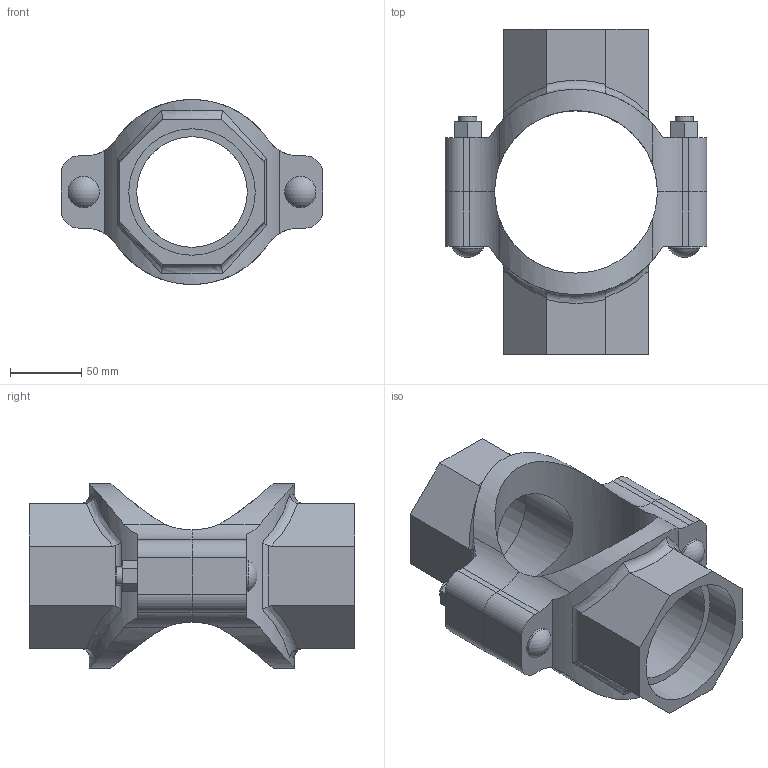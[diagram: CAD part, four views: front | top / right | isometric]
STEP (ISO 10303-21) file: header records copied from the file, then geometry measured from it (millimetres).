
FILE_DESCRIPTION(/* description */ ('VIC MECH-T BRANCH OUTLET CROSS STYLE 920N (THD)','CAx-IF Rec.Pracs.---Representation and Presentation of Product Manufacturing Information (PMI)---4.0---2014-10-13'),/* implementation_level */ '2;1');
FILE_NAME(/* name */ 'C:\Users\Vjadhav\AppData\Roaming\Autodesk\ApplicationPlugins\Back Up\Victaulic_IPS_Mechanical-Cross Outlet_Style 920N (FPT)\Victaulic_IPS_Mechanical-Cross Outlet_04.0x03.0x03.0 (100x80x80).stp',/* time_stamp */ '2020-08-06T18:58:49+05:00',/* author */ ('Vjadhav'),/* organization */ ('Victaulic'),/* preprocessor_version */ 'ST-DEVELOPER v17.2',/* originating_system */ 'Autodesk Inventor 2019',/* authorisation */ '');
FILE_SCHEMA (('AP242_MANAGED_MODEL_BASED_3D_ENGINEERING_MIM_LF { 1 0 10303 442 1 1 4 }'));
Length unit declared in the file: inch
Products named in the file (3): 920NT-04.0x03.0x03.0; 920T-04.0x03.0x03.0; 920T-04.0x03.0
Assembly tree (2 placements, depth 2):
  920NT-04.0x03.0x03.0
    920T-04.0x03.0x03.0
    920T-04.0x03.0
Bounding box: 184.15 x 228.6 x 130.04 mm (x, y, z)
Volume: 884547.8 mm3; surface area: 171047.5 mm2
Topology: 2 solids, 2 shells, 128 faces, 338 edges, 228 vertices
Faces by surface type: plane 68, cylinder 46, bspline 8, torus 4, sphere 2
Full cylindrical faces by diameter (mm): 12.7 x4, 21.982 x2, 77.787 x2, 88.9 x2
Entity records: 5138 total; most frequent: CARTESIAN_POINT 1733, ORIENTED_EDGE 676, DIRECTION 628, EDGE_CURVE 338, VERTEX_POINT 228, AXIS2_PLACEMENT_3D 223, LINE 182, VECTOR 182
